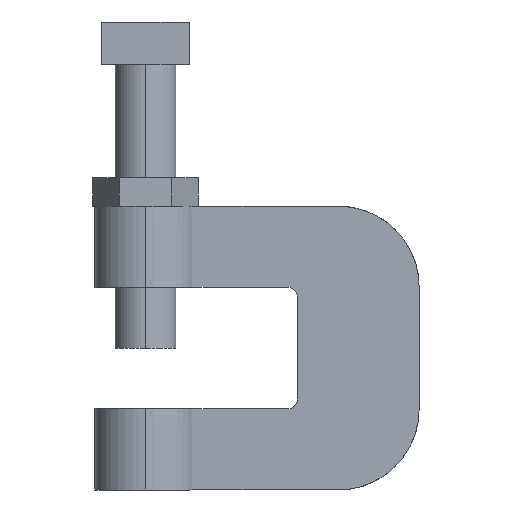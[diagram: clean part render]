
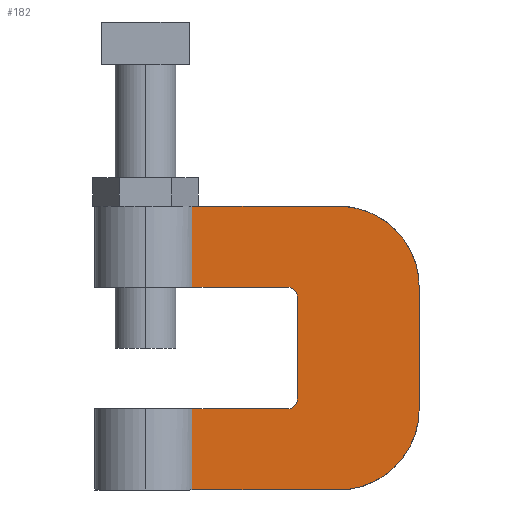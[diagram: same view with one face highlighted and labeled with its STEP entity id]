
A CAD part, front view. The second image highlights one B-rep face of the part: STEP entity #182.
In plain terms, the highlighted planar face has unit normal (0, -1, 0).
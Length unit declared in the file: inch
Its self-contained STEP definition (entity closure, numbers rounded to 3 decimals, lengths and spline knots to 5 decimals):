
#182=ADVANCED_FACE('',(#362),#363,.F.);
#362=FACE_OUTER_BOUND('',#681,.T.);
#363=PLANE('',#682);
#681=EDGE_LOOP('',(#1101,#1102,#1103,#1104,#1105,#1106,#1107,#1108,#1109,#1110,#1111,#1112));
#682=AXIS2_PLACEMENT_3D('',#1113,#1114,#1115);
#1101=ORIENTED_EDGE('',*,*,#1357,.T.);
#1102=ORIENTED_EDGE('',*,*,#1320,.F.);
#1103=ORIENTED_EDGE('',*,*,#1366,.F.);
#1104=ORIENTED_EDGE('',*,*,#1362,.F.);
#1105=ORIENTED_EDGE('',*,*,#1343,.F.);
#1106=ORIENTED_EDGE('',*,*,#1293,.T.);
#1107=ORIENTED_EDGE('',*,*,#1367,.T.);
#1108=ORIENTED_EDGE('',*,*,#1245,.F.);
#1109=ORIENTED_EDGE('',*,*,#1299,.F.);
#1110=ORIENTED_EDGE('',*,*,#1215,.F.);
#1111=ORIENTED_EDGE('',*,*,#1360,.F.);
#1112=ORIENTED_EDGE('',*,*,#1195,.T.);
#1113=CARTESIAN_POINT('',(0.63952,-0.125,0.87498));
#1114=DIRECTION('',(0.,1.0,0.));
#1115=DIRECTION('',(0.0,0.,1.0));
#1195=EDGE_CURVE('',#1392,#1390,#1393,.T.);
#1215=EDGE_CURVE('',#1427,#1429,#1430,.T.);
#1245=EDGE_CURVE('',#1480,#1482,#1483,.T.);
#1293=EDGE_CURVE('',#1558,#1556,#1559,.T.);
#1299=EDGE_CURVE('',#1429,#1480,#1566,.T.);
#1320=EDGE_CURVE('',#1595,#1597,#1598,.T.);
#1343=EDGE_CURVE('',#1558,#1626,#1627,.T.);
#1357=EDGE_CURVE('',#1390,#1597,#1642,.T.);
#1360=EDGE_CURVE('',#1392,#1427,#1645,.T.);
#1362=EDGE_CURVE('',#1626,#1647,#1648,.T.);
#1366=EDGE_CURVE('',#1647,#1595,#1652,.T.);
#1367=EDGE_CURVE('',#1556,#1482,#1653,.T.);
#1390=VERTEX_POINT('',#1681);
#1392=VERTEX_POINT('',#1688);
#1393=LINE('',#1689,#1690);
#1427=VERTEX_POINT('',#1751);
#1429=VERTEX_POINT('',#1754);
#1430=LINE('',#1755,#1756);
#1480=VERTEX_POINT('',#1852);
#1482=VERTEX_POINT('',#1855);
#1483=LINE('',#1856,#1857);
#1556=VERTEX_POINT('',#1998);
#1558=VERTEX_POINT('',#2005);
#1559=LINE('',#2006,#2007);
#1566=B_SPLINE_CURVE_WITH_KNOTS('',3,(#2019,#2020,#2021,#2022),.UNSPECIFIED.,.F.,.F.,(4,4),(0.0,1.0),.UNSPECIFIED.);
#1595=VERTEX_POINT('',#2077);
#1597=VERTEX_POINT('',#2080);
#1598=LINE('',#2081,#2082);
#1626=VERTEX_POINT('',#2138);
#1627=B_SPLINE_CURVE_WITH_KNOTS('',3,(#2139,#2140,#2141,#2142),.UNSPECIFIED.,.F.,.F.,(4,4),(0.0,1.0),.UNSPECIFIED.);
#1642=LINE('',#2173,#2174);
#1645=B_SPLINE_CURVE_WITH_KNOTS('',3,(#2177,#2178,#2179,#2180),.UNSPECIFIED.,.F.,.F.,(4,4),(0.0,1.0),.UNSPECIFIED.);
#1647=VERTEX_POINT('',#2182);
#1648=LINE('',#2183,#2184);
#1652=B_SPLINE_CURVE_WITH_KNOTS('',3,(#2189,#2190,#2191,#2192),.UNSPECIFIED.,.F.,.F.,(4,4),(0.0,1.0),.UNSPECIFIED.);
#1653=LINE('',#2193,#2194);
#1681=CARTESIAN_POINT('',(-0.02589,-0.125,1.75));
#1688=CARTESIAN_POINT('',(0.87516,-0.125,1.75));
#1689=CARTESIAN_POINT('',(0.00009,-0.125,1.75));
#1690=VECTOR('',#2224,1.0);
#1751=CARTESIAN_POINT('',(1.37516,-0.125,1.25));
#1754=CARTESIAN_POINT('',(1.37516,-0.125,0.5));
#1755=CARTESIAN_POINT('',(1.37516,-0.125,1.25));
#1756=VECTOR('',#2235,1.0);
#1852=CARTESIAN_POINT('',(0.87516,-0.125,0.0));
#1855=CARTESIAN_POINT('',(-0.02589,-0.125,0.0));
#1856=CARTESIAN_POINT('',(0.87516,-0.125,0.0));
#1857=VECTOR('',#2247,1.0);
#1998=CARTESIAN_POINT('',(-0.02589,-0.125,0.5));
#2005=CARTESIAN_POINT('',(0.56266,-0.125,0.5));
#2006=CARTESIAN_POINT('',(0.0,-0.125,0.5));
#2007=VECTOR('',#2269,1.0);
#2019=CARTESIAN_POINT('',(1.37516,-0.125,0.5));
#2020=CARTESIAN_POINT('',(1.37516,-0.125,0.22385));
#2021=CARTESIAN_POINT('',(1.1513,-0.125,0.0));
#2022=CARTESIAN_POINT('',(0.87516,-0.125,0.0));
#2077=CARTESIAN_POINT('',(0.56266,-0.125,1.25));
#2080=CARTESIAN_POINT('',(-0.02589,-0.125,1.25));
#2081=CARTESIAN_POINT('',(0.56266,-0.125,1.25));
#2082=VECTOR('',#2281,1.0);
#2138=CARTESIAN_POINT('',(0.62516,-0.125,0.5625));
#2139=CARTESIAN_POINT('',(0.56266,-0.125,0.5));
#2140=CARTESIAN_POINT('',(0.59718,-0.125,0.5));
#2141=CARTESIAN_POINT('',(0.62516,-0.125,0.52798));
#2142=CARTESIAN_POINT('',(0.62516,-0.125,0.5625));
#2173=CARTESIAN_POINT('',(-0.02589,-0.125,1.75001));
#2174=VECTOR('',#2296,1.0);
#2177=CARTESIAN_POINT('',(0.87516,-0.125,1.75));
#2178=CARTESIAN_POINT('',(1.1513,-0.125,1.75));
#2179=CARTESIAN_POINT('',(1.37516,-0.125,1.52614));
#2180=CARTESIAN_POINT('',(1.37516,-0.125,1.25));
#2182=CARTESIAN_POINT('',(0.62516,-0.125,1.1875));
#2183=CARTESIAN_POINT('',(0.62516,-0.125,0.5625));
#2184=VECTOR('',#2297,1.0);
#2189=CARTESIAN_POINT('',(0.62516,-0.125,1.1875));
#2190=CARTESIAN_POINT('',(0.62516,-0.125,1.22202));
#2191=CARTESIAN_POINT('',(0.59718,-0.125,1.25));
#2192=CARTESIAN_POINT('',(0.56266,-0.125,1.25));
#2193=CARTESIAN_POINT('',(-0.02589,-0.125,0.50023));
#2194=VECTOR('',#2299,1.0);
#2224=DIRECTION('',(-1.0,0.0,0.0));
#2235=DIRECTION('',(0.0,0.,-1.0));
#2247=DIRECTION('',(-1.0,0.0,0.0));
#2269=DIRECTION('',(-1.0,0.0,0.0));
#2281=DIRECTION('',(-1.0,0.0,0.0));
#2296=DIRECTION('',(0.0,0.,-1.0));
#2297=DIRECTION('',(0.0,0.0,1.0));
#2299=DIRECTION('',(0.0,0.0,-1.0));
